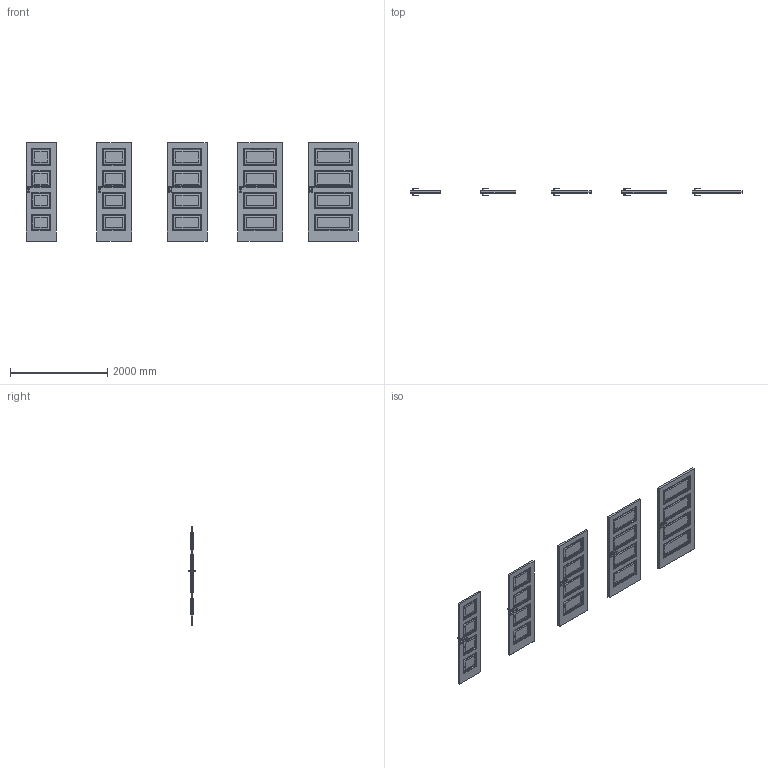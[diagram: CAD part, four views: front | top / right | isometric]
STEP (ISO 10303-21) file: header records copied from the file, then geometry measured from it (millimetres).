
FILE_DESCRIPTION(/* description */ (''),/* implementation_level */ '2;1');
FILE_NAME(/* name */ '049927_A_2-Skrzydło NOVA model 5.1_ polska norma _PN__ bezprzylgowe..stp',/* time_stamp */ '2024-11-08T14:28:35+01:00',/* author */ (''),/* organization */ (''),/* preprocessor_version */ 'ST-DEVELOPER v16',/* originating_system */ 'SIEMENS PLM Software NX 11.0',/* authorisation */ '');
FILE_SCHEMA (('AUTOMOTIVE_DESIGN { 1 0 10303 214 3 1 1 1 }'));
Products named in the file (1): bkni578C7A46mvp9
Bounding box: 6818 x 153.13 x 2017 mm (x, y, z)
Volume: 242368255.5 mm3; surface area: 21875820.2 mm2
Topology: 25 solids, 25 shells, 3710 faces, 9726 edges, 5716 vertices
Faces by surface type: plane 2110, bspline 1160, cylinder 300, sphere 140
Entity records: 168786 total; most frequent: CARTESIAN_POINT 86271, ORIENTED_EDGE 19172, DIRECTION 13276, EDGE_CURVE 9586, LINE 6014, VECTOR 6014, VERTEX_POINT 5716, EDGE_LOOP 4000
